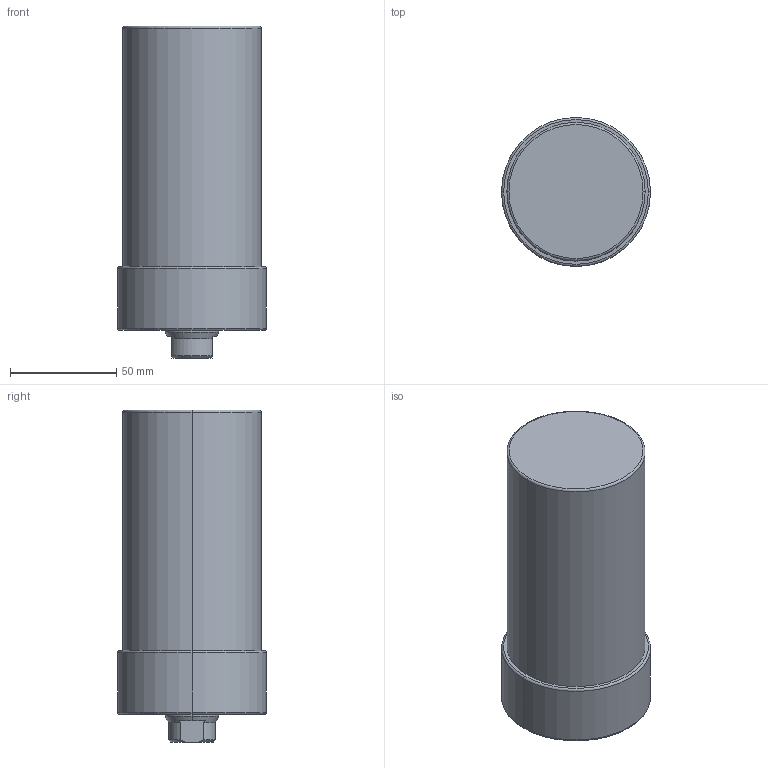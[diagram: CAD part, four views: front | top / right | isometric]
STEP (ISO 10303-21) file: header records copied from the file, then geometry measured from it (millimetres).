
FILE_DESCRIPTION (( 'STEP AP203' ), '1' );
FILE_NAME ('CLLU-065GA-080.STEP', '2020-01-07T00:04:12', ( '' ), ( '' ), 'SwSTEP 2.0', 'SolidWorks 2015', '' );
FILE_SCHEMA (( 'CONFIG_CONTROL_DESIGN' ));
Length unit declared in the file: millimetre
Products named in the file (1): CLLU-065GA-080
Bounding box: 70 x 70 x 156 mm (x, y, z)
Volume: 490856.6 mm3; surface area: 40099.6 mm2
Topology: 1 solids, 1 shells, 62 faces, 140 edges, 79 vertices
Faces by surface type: cone 24, cylinder 22, plane 10, torus 6
Entity records: 1751 total; most frequent: DIRECTION 320, CARTESIAN_POINT 300, ORIENTED_EDGE 260, AXIS2_PLACEMENT_3D 135, EDGE_CURVE 130, VERTEX_POINT 79, CIRCLE 72, EDGE_LOOP 71
